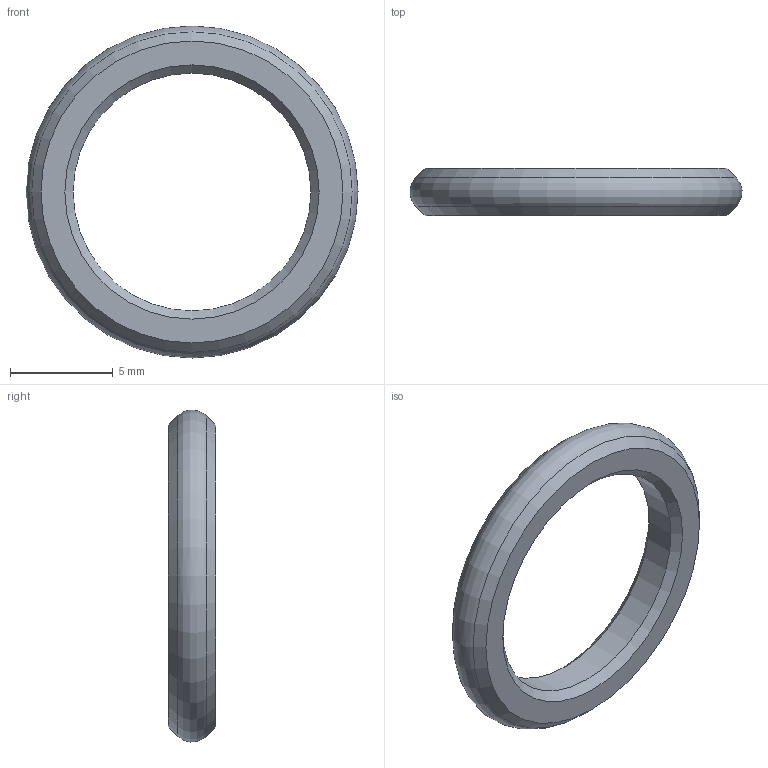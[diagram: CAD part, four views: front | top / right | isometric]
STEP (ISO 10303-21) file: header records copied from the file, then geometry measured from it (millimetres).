
FILE_DESCRIPTION(('FreeCAD Model'),'2;1');
FILE_NAME('Open CASCADE Shape Model','2022-10-12T14:19:44',(''),(''), 'Open CASCADE STEP processor 7.6','FreeCAD','Unknown');
FILE_SCHEMA(('AUTOMOTIVE_DESIGN { 1 0 10303 214 1 1 1 1 }'));
Length unit declared in the file: millimetre
Products named in the file (1): Chamfer
Bounding box: 16.19 x 2.3 x 16.19 mm (x, y, z)
Volume: 196.1 mm3; surface area: 335.2 mm2
Topology: 1 solids, 1 shells, 8 faces, 14 edges, 8 vertices
Faces by surface type: cone 4, plane 2, cylinder 1, revolution 1
Full cylindrical faces by diameter (mm): 11.6 x1
Entity records: 403 total; most frequent: DIRECTION 66, CARTESIAN_POINT 64, ORIENTED_EDGE 28, PCURVE 28, DEFINITIONAL_REPRESENTATION 28, LINE 25, VECTOR 25, AXIS2_PLACEMENT_3D 18
